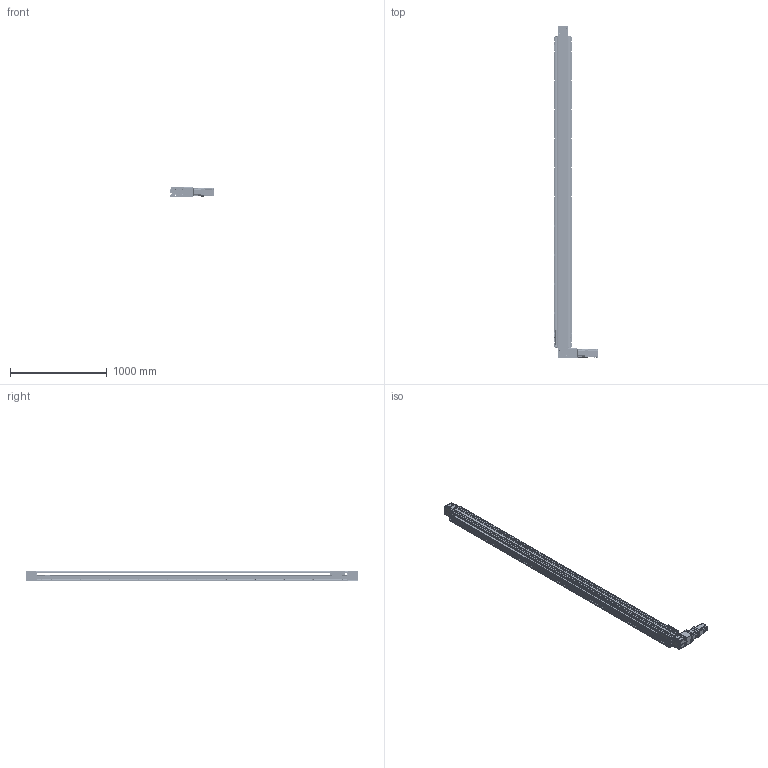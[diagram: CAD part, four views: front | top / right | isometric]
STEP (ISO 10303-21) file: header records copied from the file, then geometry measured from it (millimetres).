
FILE_DESCRIPTION(/* description */ (''),/* implementation_level */ '2;1');
FILE_NAME(/* name */ '\\192.168.0.160\disk1\HAN SHIN Master\B-설계부문\C-표준\B-2024년\BC02-표준도면\+로봇 개선표준도면\홈페이지 표준 도면\홈페이지 최종 작업 폴더\3D\HB\HB160-SR7G-N-3000-L.stp',/* time_stamp */ '2025-01-14T10:58:27+09:00',/* author */ ('user'),/* organization */ (''),/* preprocessor_version */ 'ST-DEVELOPER v18.1',/* originating_system */ 'Autodesk Inventor 2022',/* authorisation */ '');
FILE_SCHEMA (('AUTOMOTIVE_DESIGN { 1 0 10303 214 3 1 1 }'));
Products named in the file (38): HSB160-SR7G-N-0500-L; BASE; HSB160 TABLE (TEST); FORNT HOUSUNG-1 (Connecting); UPCOVER; HSB160 COVER-1; REAR HOUSUNG-1---; HSB160 REAR SHAFT-2; REAR SHAFT--2; 6004ZZ; 6004ZZ Outer ring; 6004ZZ Shield1; 6004ZZ Inner ring; 6004ZZ Ball; 6004ZZ Shield2; STOPPER3; TENSION PLATE; HSB160 ARC COVER; hsr_ftht_A-M6F_grease_nipple_joint; NIPPLE CAP(신규); HSB160 SHAFT-1; HSB160 BEARING OVER; HSB160 END COVER; HG160 S MOTOR PLATE-M; HG160 S MOTOR PLATE-B; COUPLING COVER 400W-R1; HR120 SENSOR DOG; SENSOR BRK(EE-SX674A); EE_SX674A; hg-kr73_; PGX90-H-1_3; SDWC-54C; 6206ZZ; 6206ZZ Outer ring; 6206ZZ Shield1; 6206ZZ Inner ring; 6206ZZ Ball; 6206ZZ Shield2
Assembly tree (81 placements, depth 3):
  HSB160-SR7G-N-0500-L
    BASE
    HSB160 TABLE (TEST)
    FORNT HOUSUNG-1 (Connecting)
    6206ZZ  x2
      6206ZZ Outer ring
      6206ZZ Shield1
      6206ZZ Inner ring
      6206ZZ Ball
      6206ZZ Shield2
    UPCOVER
    HSB160 COVER-1  x2
    REAR HOUSUNG-1---
    6004ZZ  x2
      6004ZZ Outer ring
      6004ZZ Shield1
      6004ZZ Inner ring
      6004ZZ Ball
      6004ZZ Shield2
    HSB160 REAR SHAFT-2
    REAR SHAFT--2
    TENSION PLATE  x2
    HSB160 ARC COVER  x4
    STOPPER3  x4
    hsr_ftht_A-M6F_grease_nipple_joint  x4
    NIPPLE CAP(신규)  x4
    HSB160 SHAFT-1
    HSB160 BEARING OVER
    HSB160 END COVER
    HG160 S MOTOR PLATE-M
    HG160 S MOTOR PLATE-B
    COUPLING COVER 400W-R1
    SENSOR BRK(EE-SX674A)  x3
    EE_SX674A  x3
    HR120 SENSOR DOG
    hg-kr73_
    PGX90-H-1_3
    SDWC-54C
Bounding box: 461.5 x 3424 x 107 mm (x, y, z)
Volume: 18309420.6 mm3; surface area: 4152249.6 mm2
Topology: 126 solids, 146 shells, 6907 faces, 18821 edges, 12347 vertices
Faces by surface type: plane 4767, cylinder 1441, cone 435, torus 151, sphere 84, bspline 29
Full cylindrical faces by diameter (mm): 2.013 x2, 2.459 x28, 3 x28, 3.242 x38, 3.3 x8, 3.5 x6, 4 x20, 4.134 x16, 4.2 x10, 4.5 x36, 4.917 x82, 5 x58, 5.1 x1, 5.34 x8, 5.35 x8, 5.4 x16, 5.5 x24, 5.6 x4, 5.9 x4, 6 x21, 6.5 x9, 6.6 x22, 6.8 x9, 7 x40, 7.6 x4, 8 x5, 8.376 x24, 8.433 x2, 8.5 x4, 9 x24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
Entity records: 132582 total; most frequent: CARTESIAN_POINT 25881, DIRECTION 22219, ORIENTED_EDGE 21310, EDGE_CURVE 10655, AXIS2_PLACEMENT_3D 7765, VERTEX_POINT 7022, LINE 6689, VECTOR 6689
